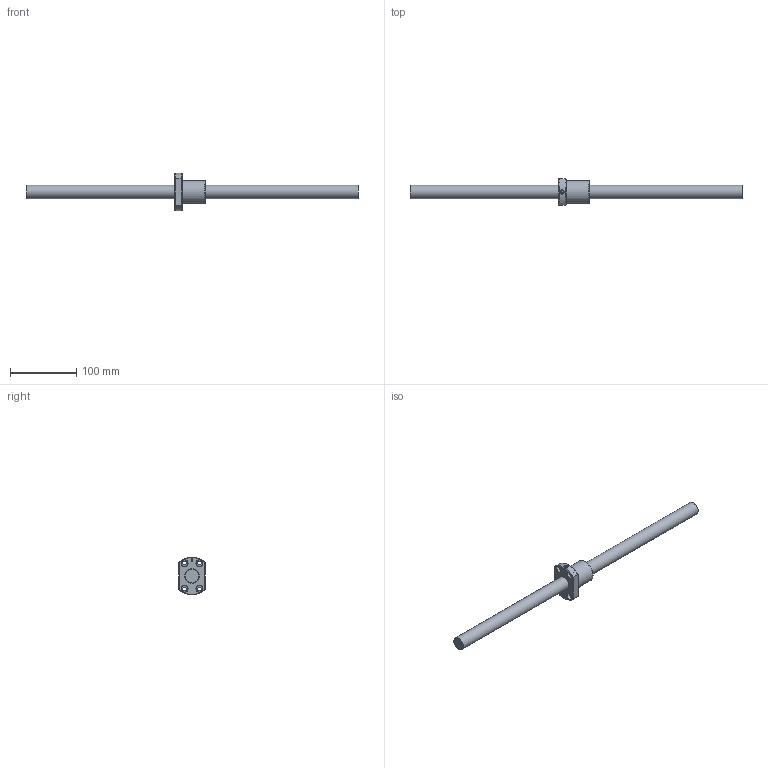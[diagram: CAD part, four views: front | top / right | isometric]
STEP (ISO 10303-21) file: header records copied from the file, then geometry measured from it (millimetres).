
FILE_DESCRIPTION (( 'STEP AP203' ), '1' );
FILE_NAME ('SFI02004D-4.step', '2024-05-16T02:27:37', ( '' ), ( '' ), 'SwSTEP 2.0', 'SolidWorks 2022', '' );
FILE_SCHEMA (( 'CONFIG_CONTROL_DESIGN' ));
Length unit declared in the file: millimetre
Products named in the file (1): SFI02004D-4
Bounding box: 500 x 40 x 56.97 mm (x, y, z)
Volume: 192301 mm3; surface area: 45097.3 mm2
Topology: 2 solids, 2 shells, 56 faces, 142 edges, 91 vertices
Faces by surface type: cylinder 21, plane 16, cone 9, bspline 5, torus 5
Full cylindrical faces by diameter (mm): 4 x1, 5 x6, 5.5 x4, 9.5 x4, 20 x1, 21.6 x1, 34 x1
Entity records: 3216 total; most frequent: CARTESIAN_POINT 2130, DIRECTION 198, ORIENTED_EDGE 182, AXIS2_PLACEMENT_3D 91, EDGE_CURVE 91, EDGE_LOOP 86, VERTEX_POINT 71, FACE_OUTER_BOUND 64
